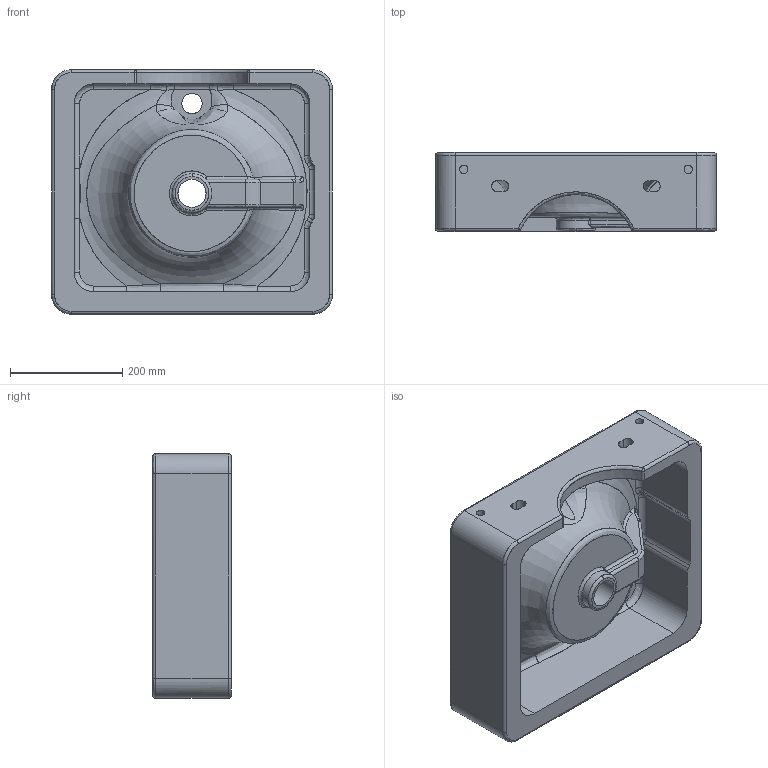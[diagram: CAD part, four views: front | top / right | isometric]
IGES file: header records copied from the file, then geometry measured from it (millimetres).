
Start section: C
Global section: file name: Lines R 50x44.igs; native system:  By UGS Corp.; preprocessor: XPlus GENERIC/IGES 3.0; author: Author; organization: Title; date: 20140131.123137; units: millimetre
Bounding box: 500 x 140 x 435 mm (x, y, z)
Surface area: 929426.3 mm2 (no closed solid volume)
Topology: 0 solids, 0 shells, 160 faces, 796 edges, 790 vertices
Faces by surface type: bspline 160
